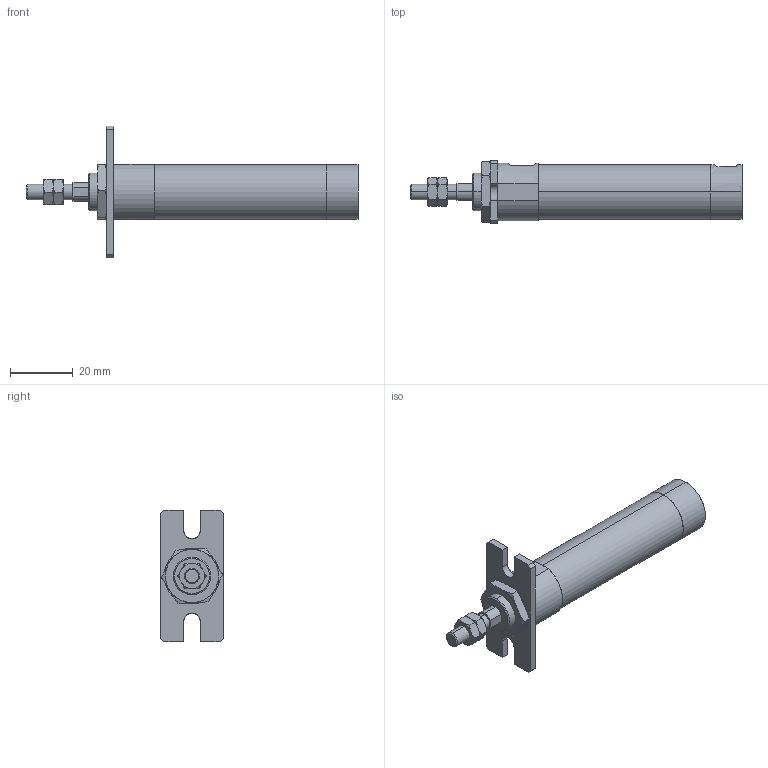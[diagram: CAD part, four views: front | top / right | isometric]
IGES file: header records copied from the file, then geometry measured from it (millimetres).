
Start section: SolidWorks IGES file using analytic representation for surfaces
Global section: file name: C:\Users\Toshiba\Desktop\ZGU2-16-30-A.IGS; native system: SolidWorks 2014; preprocessor: SolidWorks 2014; author: Toshiba; date: 160331.085823; units: millimetre
Bounding box: 106 x 20 x 42 mm (x, y, z)
Surface area: 8164.6 mm2 (no closed solid volume)
Topology: 0 solids, 0 shells, 129 faces, 1916 edges, 1912 vertices
Faces by surface type: bspline 93, revolution 36
